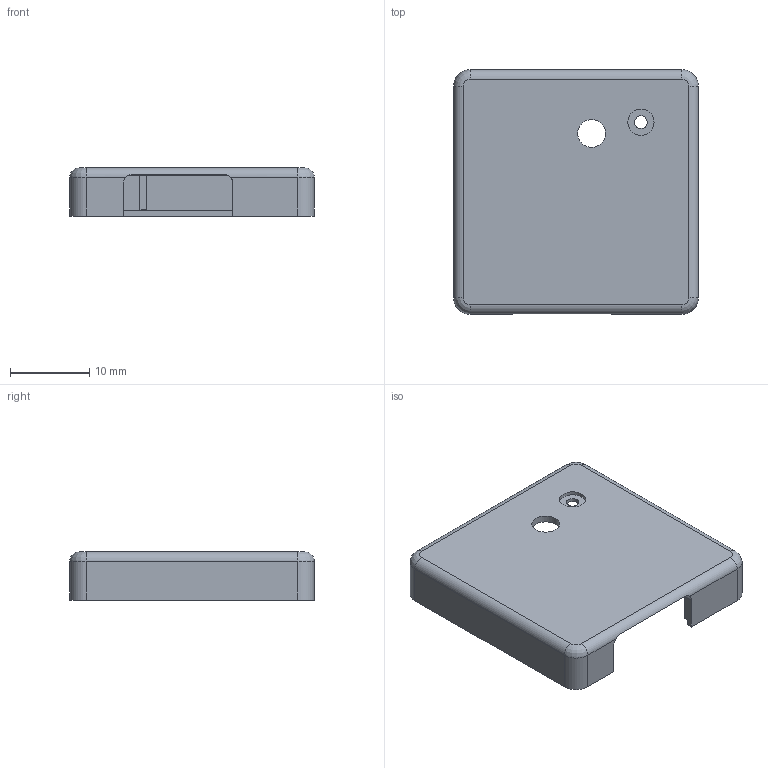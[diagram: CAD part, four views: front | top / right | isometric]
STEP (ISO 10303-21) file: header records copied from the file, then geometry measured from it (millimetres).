
FILE_DESCRIPTION(('Open CASCADE Model'),'2;1');
FILE_NAME('Open CASCADE Shape Model','2026-10-29T14:13:48',('Author'),( 'Open CASCADE'),'Open CASCADE STEP processor 7.9','Open CASCADE 7.9' ,'Unknown');
FILE_SCHEMA(('AUTOMOTIVE_DESIGN { 1 0 10303 214 1 1 1 1 }'));
Length unit declared in the file: millimetre
Products named in the file (1): Open CASCADE STEP translator 7.9 2
Bounding box: 30.8 x 30.8 x 6.08 mm (x, y, z)
Volume: 1484.5 mm3; surface area: 3066 mm2
Topology: 1 solids, 1 shells, 73 faces, 190 edges, 124 vertices
Faces by surface type: plane 46, cylinder 23, revolution 4
Full cylindrical faces by diameter (mm): 1.6 x1, 3.3 x1, 3.5 x1
Entity records: 5000 total; most frequent: CARTESIAN_POINT 1201, DIRECTION 696, LINE 405, VECTOR 405, ORIENTED_EDGE 380, PCURVE 380, DEFINITIONAL_REPRESENTATION 380, EDGE_CURVE 190
